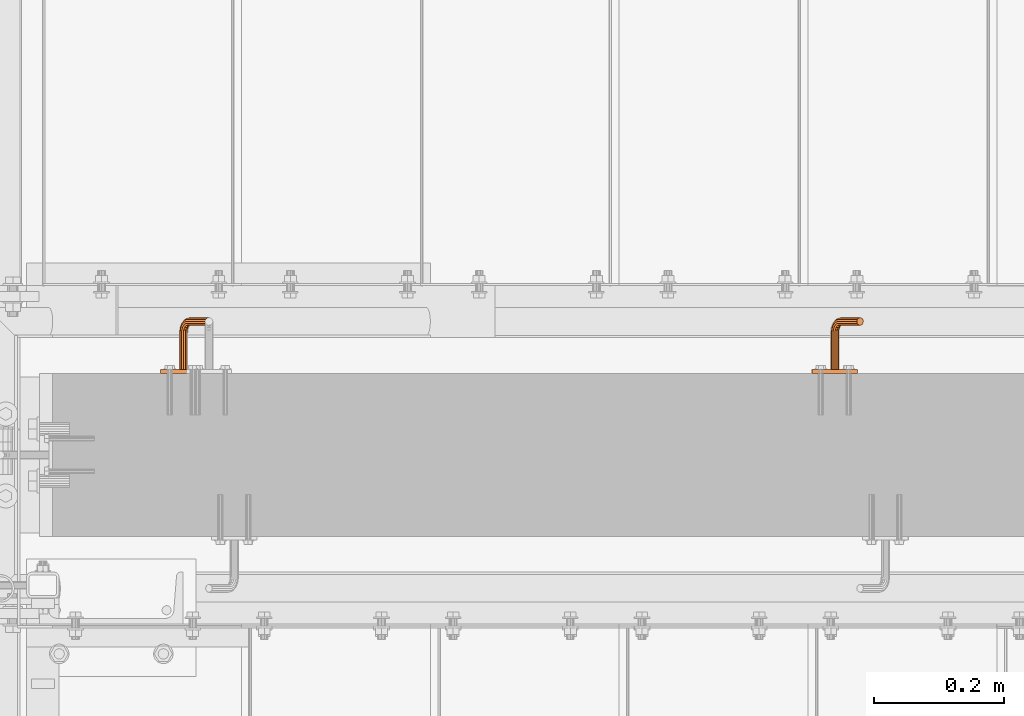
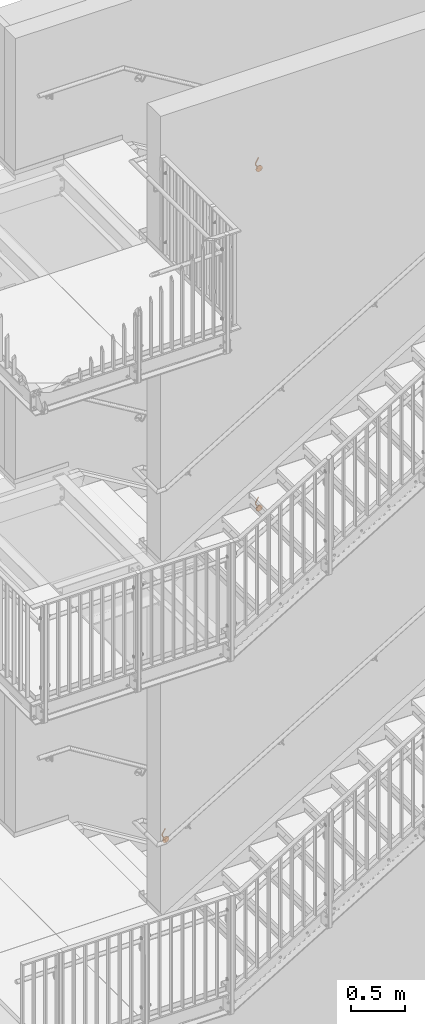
# One storey, part 378 of 410: 3 proxies.
"""IFC2X3 building model written with IfcOpenShell, lengths in millimetres."""

from ifc_helpers import new_model, entity, si_unit, converted_unit, origin_with_axes, place, context, project, spatial, faceted_brep, element, save


model = new_model("IFC2X3")

# Units and contexts
model_context = context("Model", 3, precision=1e-09, world=origin_with_axes())
ifc_project = project(units=[si_unit("LENGTHUNIT", "METRE", prefix="MILLI"), si_unit("AREAUNIT", "SQUARE_METRE"), si_unit("VOLUMEUNIT", "CUBIC_METRE"), converted_unit("PLANEANGLEUNIT", "DEGREE", entity("IfcPlaneAngleMeasure", 0.01745329), si_unit("PLANEANGLEUNIT", "RADIAN"), dimensions=[0, 0, 0, 0, 0, 0, 0])], contexts=[model_context])

# Site, building, storey
site_placement = place(None, origin_with_axes())
site = spatial("IfcSite", under=ifc_project, at=site_placement, Name="mKR Teilneubau & Sanierung BA1 - Ostfildern", CompositionType="ELEMENT")
building_placement = place(site_placement, origin_with_axes())
building = spatial("IfcBuilding", under=site, at=building_placement, Name="Struktur 1", CompositionType="ELEMENT")
storey_placement = place(building_placement, origin_with_axes())
storey = spatial("IfcBuildingStorey", under=building, at=storey_placement, Name="Default Storey", CompositionType="ELEMENT", Elevation=0.0)

# Proxies
proxy_1_placement = place(None, origin_with_axes())
element("IfcBuildingElementProxy", 1, at=proxy_1_placement, inside=storey, ObjectType="-", context=model_context, shape_type="Brep", body=[
    faceted_brep([(-527.207942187, 17111.0, 7854.625873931), (-527.207942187, 17105.0, 7854.625873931), (-528.793361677, 17105.0, 7853.100660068), (-528.793361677, 17111.0, 7853.100660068), (-478.86358451, 17111.0, 7862.598627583), (-472.221002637, 17111.0, 7853.184602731), (-468.995063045, 17111.0, 7842.123812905), (-469.535346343, 17111.0, 7830.614866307), (-473.783304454, 17111.0, 7819.904935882), (-481.278605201, 17111.0, 7811.154608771), (-491.209016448, 17111.0, 7805.312118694), (-502.49842405, 17111.0, 7803.010590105), (-513.923445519, 17111.0, 7804.499429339), (-524.246002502, 17111.0, 7809.617297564), (-532.347485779, 17111.0, 7817.809594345), (-537.349973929, 17111.0, 7828.188557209), (-538.711369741, 17111.0, 7839.629464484), (-536.284144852, 17111.0, 7850.892516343), (-530.331326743, 17111.0, 7860.757186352), (-521.497995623, 17111.0, 7868.15448445), (-510.741379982, 17111.0, 7872.282798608), (-499.22712603, 17111.0, 7872.694761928), (-488.202981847, 17111.0, 7869.345731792), (-484.398559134, 17111.0, 7828.792625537), (-485.983978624, 17111.0, 7827.267411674), (-486.594385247, 17111.0, 7825.153827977), (-486.066221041, 17111.0, 7823.018207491), (-484.541007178, 17111.0, 7821.432788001), (-482.427423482, 17111.0, 7820.822381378), (-480.291802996, 17111.0, 7821.350545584), (-478.706383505, 17111.0, 7822.875759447), (-478.095976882, 17111.0, 7824.989343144), (-478.624141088, 17111.0, 7827.124963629), (-480.149354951, 17111.0, 7828.71038312), (-482.262938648, 17111.0, 7829.320789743), (-529.403768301, 17111.0, 7850.987076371), (-528.875604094, 17111.0, 7848.851455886), (-527.350390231, 17111.0, 7847.266036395), (-525.236806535, 17111.0, 7846.655629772), (-523.101186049, 17111.0, 7847.183793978), (-521.515766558, 17111.0, 7848.709007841), (-520.905359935, 17111.0, 7850.822591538), (-521.433524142, 17111.0, 7852.958212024), (-522.958738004, 17111.0, 7854.543631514), (-525.072321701, 17111.0, 7855.154038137), (-525.072321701, 17105.0, 7855.154038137), (-513.923445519, 17105.0, 7804.499429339), (-502.49842405, 17105.0, 7803.010590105), (-491.209016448, 17105.0, 7805.312118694), (-481.278605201, 17105.0, 7811.154608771), (-473.783304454, 17105.0, 7819.904935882), (-469.535346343, 17105.0, 7830.614866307), (-468.995063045, 17105.0, 7842.123812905), (-472.221002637, 17105.0, 7853.184602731), (-478.86358451, 17105.0, 7862.598627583), (-488.202981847, 17105.0, 7869.345731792), (-499.22712603, 17105.0, 7872.694761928), (-510.741379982, 17105.0, 7872.282798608), (-521.497995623, 17105.0, 7868.15448445), (-530.331326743, 17105.0, 7860.757186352), (-536.284144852, 17105.0, 7850.892516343), (-538.711369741, 17105.0, 7839.629464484), (-537.349973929, 17105.0, 7828.188557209), (-532.347485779, 17105.0, 7817.809594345), (-524.246002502, 17105.0, 7809.617297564), (-486.594385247, 17105.0, 7825.153827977), (-485.983978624, 17105.0, 7827.267411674), (-484.398559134, 17105.0, 7828.792625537), (-482.262938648, 17105.0, 7829.320789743), (-480.149354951, 17105.0, 7828.71038312), (-478.624141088, 17105.0, 7827.124963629), (-478.095976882, 17105.0, 7824.989343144), (-478.706383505, 17105.0, 7822.875759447), (-480.291802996, 17105.0, 7821.350545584), (-482.427423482, 17105.0, 7820.822381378), (-484.541007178, 17105.0, 7821.432788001), (-486.066221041, 17105.0, 7823.018207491), (-522.958738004, 17105.0, 7854.543631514), (-521.433524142, 17105.0, 7852.958212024), (-520.905359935, 17105.0, 7850.822591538), (-521.515766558, 17105.0, 7848.709007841), (-523.101186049, 17105.0, 7847.183793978), (-525.236806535, 17105.0, 7846.655629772), (-527.350390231, 17105.0, 7847.266036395), (-528.875604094, 17105.0, 7848.851455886), (-529.403768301, 17105.0, 7850.987076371)], [[[0, 1, 2, 3]], [[4, 5, 6, 7, 8, 9, 10, 11, 12, 13, 14, 15, 16, 17, 18, 19, 20, 21, 22], [23, 24, 25, 26, 27, 28, 29, 30, 31, 32, 33, 34], [3, 35, 36, 37, 38, 39, 40, 41, 42, 43, 44, 0]], [[1, 0, 44, 45]], [[46, 47, 48, 49, 50, 51, 52, 53, 54, 55, 56, 57, 58, 59, 60, 61, 62, 63, 64], [65, 66, 67, 68, 69, 70, 71, 72, 73, 74, 75, 76], [1, 45, 77, 78, 79, 80, 81, 82, 83, 84, 85, 2]], [[3, 2, 85, 35]], [[59, 18, 17, 60]], [[35, 85, 84, 36]], [[45, 44, 43, 77]], [[18, 59, 58, 19]], [[36, 84, 83, 37]], [[60, 17, 16, 61]], [[77, 43, 42, 78]], [[57, 20, 19, 58]], [[37, 83, 82, 38]], [[20, 57, 56, 21]], [[15, 62, 61, 16]], [[78, 42, 41, 79]], [[62, 15, 14, 63]], [[38, 82, 81, 39]], [[79, 41, 40, 80]], [[21, 56, 55, 22]], [[39, 81, 80, 40]], [[63, 14, 13, 64]], [[22, 55, 54, 4]], [[66, 24, 23, 67]], [[64, 13, 12, 46]], [[24, 66, 65, 25]], [[67, 23, 34, 68]], [[4, 54, 53, 5]], [[46, 12, 11, 47]], [[25, 65, 76, 26]], [[68, 34, 33, 69]], [[5, 53, 52, 6]], [[47, 11, 10, 48]], [[26, 76, 75, 27]], [[69, 33, 32, 70]], [[6, 52, 51, 7]], [[48, 10, 9, 49]], [[27, 75, 74, 28]], [[50, 8, 7, 51]], [[70, 32, 31, 71]], [[8, 50, 49, 9]], [[28, 74, 73, 29]], [[71, 31, 30, 72]], [[29, 73, 72, 30]]]),
    faceted_brep([(-498.612746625, 17111.0, 7834.88821995), (-498.612746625, 17167.0, 7834.88821995), (-497.750996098, 17167.0, 7837.872102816), (-497.750996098, 17111.0, 7837.872102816), (-460.551118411, 17188.0, 7899.517614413), (-490.00102158, 17188.0, 7850.714917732), (-491.881340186, 17190.196152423, 7851.849592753), (-462.431437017, 17190.196152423, 7900.652289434), (-459.862874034, 17185.0, 7899.10229453), (-489.312777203, 17185.0, 7850.299597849), (-494.153123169, 17186.401470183, 7843.834292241), (-496.467663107, 17188.430450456, 7844.249400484), (-509.748749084, 17111.0, 7838.104316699), (-509.003105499, 17111.0, 7835.089323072), (-506.849862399, 17111.0, 7832.851083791), (-503.865979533, 17111.0, 7831.989333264), (-500.850985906, 17111.0, 7832.73497685), (-498.496639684, 17111.0, 7840.887096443), (-500.649882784, 17111.0, 7843.125335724), (-503.63376565, 17111.0, 7843.98708625), (-506.648759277, 17111.0, 7843.241442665), (-508.886998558, 17111.0, 7841.088199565), (-500.850985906, 17167.0, 7832.73497685), (-497.904828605, 17173.888301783, 7836.06134124), (-497.161064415, 17172.740251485, 7838.849703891), (-469.448881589, 17182.0, 7904.886954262), (-467.568562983, 17179.803847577, 7903.752279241), (-465.0, 17179.0, 7902.202284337), (-462.431437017, 17179.803847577, 7900.652289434), (-460.551118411, 17182.0, 7899.517614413), (-465.0, 17191.0, 7902.202284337), (-467.568562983, 17190.196152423, 7903.752279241), (-469.448881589, 17188.0, 7904.886954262), (-470.137125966, 17185.0, 7905.302274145), (-492.871721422, 17183.629831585, 7844.401918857), (-495.888848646, 17179.727922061, 7839.402108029), (-497.67310493, 17181.849242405, 7838.001179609), (-498.496639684, 17167.0, 7840.887096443), (-500.025081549, 17175.03635208, 7834.103618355), (-494.449903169, 17191.0, 7853.399587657), (-490.00102158, 17182.0, 7850.714917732), (-499.195162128, 17189.17310878, 7845.536015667), (-500.355759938, 17183.402156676, 7837.806268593), (-495.481081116, 17177.606601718, 7841.633676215), (-497.993079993, 17171.899820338, 7841.721566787), (-503.865979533, 17167.0, 7831.989333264), (-492.966808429, 17180.858192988, 7845.800185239), (-500.649882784, 17167.0, 7843.125335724), (-502.953703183, 17175.876783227, 7833.501105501), (-497.018466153, 17190.196152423, 7854.94958256), (-491.881340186, 17179.803847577, 7851.849592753), (-501.604789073, 17188.430450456, 7847.349390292), (-503.217998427, 17183.970562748, 7838.86960123), (-496.55906332, 17176.053687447, 7844.097937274), (-500.177937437, 17171.592201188, 7843.907416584), (-506.849862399, 17167.0, 7832.851083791), (-494.412905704, 17178.829212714, 7847.654427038), (-498.898784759, 17188.0, 7856.084257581), (-503.63376565, 17167.0, 7843.98708625), (-505.905971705, 17176.184402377, 7834.415245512), (-494.449903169, 17179.0, 7853.399587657), (-503.050886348, 17186.401470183, 7849.203632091), (-505.492885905, 17183.402156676, 7840.9062584), (-498.833950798, 17175.485281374, 7846.134594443), (-503.13020596, 17171.899820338, 7844.821556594), (-509.003105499, 17167.0, 7835.089323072), (-496.822532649, 17178.08655439, 7849.467801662), (-499.587029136, 17185.0, 7856.499577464), (-506.648759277, 17167.0, 7843.241442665), (-508.090829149, 17175.876783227, 7836.601095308), (-497.018466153, 17179.803847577, 7854.94958256), (-498.898784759, 17182.0, 7856.084257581), (-503.145973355, 17183.629831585, 7850.601898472), (-506.570868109, 17181.849242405, 7843.370519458), (-501.696189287, 17176.053687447, 7847.197927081), (-506.058827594, 17172.740251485, 7844.219043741), (-508.886998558, 17167.0, 7841.088199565), (-509.748749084, 17167.0, 7838.104316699), (-499.55003167, 17178.829212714, 7850.754416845), (-508.922844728, 17175.03635208, 7839.472958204), (-501.864571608, 17180.858192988, 7851.169525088), (-506.163100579, 17179.727922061, 7845.602087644), (-508.179080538, 17173.888301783, 7842.261320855), (-504.378844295, 17177.606601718, 7847.003016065)], [[[0, 1, 2, 3]], [[4, 5, 6, 7]], [[5, 4, 8, 9]], [[6, 5, 10, 11]], [[12, 13, 14, 15, 16, 0, 3, 17, 18, 19, 20, 21]], [[1, 0, 16, 22]], [[2, 1, 23, 24]], [[25, 26, 27, 28, 29, 8, 4, 7, 30, 31, 32, 33]], [[34, 10, 5, 9]], [[35, 36, 10, 34]], [[3, 2, 37, 17]], [[38, 23, 1, 22]], [[36, 35, 23, 38]], [[7, 6, 39, 30]], [[9, 8, 29, 40]], [[39, 6, 11, 41]], [[11, 10, 36, 42]], [[24, 23, 35, 43]], [[37, 2, 24, 44]], [[22, 16, 15, 45]], [[43, 35, 34, 46]], [[46, 34, 9, 40]], [[17, 37, 47, 18]], [[48, 38, 22, 45]], [[42, 36, 38, 48]], [[30, 39, 49, 31]], [[40, 29, 28, 50]], [[49, 39, 41, 51]], [[41, 11, 42, 52]], [[44, 24, 43, 53]], [[47, 37, 44, 54]], [[45, 15, 14, 55]], [[53, 43, 46, 56]], [[56, 46, 40, 50]], [[31, 49, 57, 32]], [[18, 47, 58, 19]], [[59, 48, 45, 55]], [[52, 42, 48, 59]], [[50, 28, 27, 60]], [[57, 49, 51, 61]], [[51, 41, 52, 62]], [[54, 44, 53, 63]], [[58, 47, 54, 64]], [[55, 14, 13, 65]], [[66, 56, 50, 60]], [[63, 53, 56, 66]], [[32, 57, 67, 33]], [[19, 58, 68, 20]], [[69, 59, 55, 65]], [[62, 52, 59, 69]], [[60, 27, 26, 70]], [[71, 25, 33, 67]], [[70, 26, 25, 71]], [[67, 57, 61, 72]], [[61, 51, 62, 73]], [[64, 54, 63, 74]], [[68, 58, 64, 75]], [[76, 21, 20, 68]], [[77, 12, 21, 76]], [[65, 13, 12, 77]], [[78, 66, 60, 70]], [[74, 63, 66, 78]], [[79, 69, 65, 77]], [[73, 62, 69, 79]], [[71, 67, 72, 80]], [[70, 71, 80, 78]], [[72, 61, 73, 81]], [[76, 68, 75, 82]], [[75, 64, 74, 83]], [[77, 76, 82, 79]], [[83, 74, 78, 80]], [[81, 73, 79, 82]], [[80, 72, 81, 83]], [[82, 75, 83, 81]]]),
])
proxy_2_placement = place(None, origin_with_axes())
element("IfcBuildingElementProxy", 2, at=proxy_2_placement, inside=storey, ObjectType="-", context=model_context, shape_type="Brep", body=[
    faceted_brep([(-527.076769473, 17111.0, 4009.184446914), (-527.076769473, 17105.0, 4009.184446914), (-528.657985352, 17105.0, 4007.654875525), (-528.657985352, 17111.0, 4007.654875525), (-478.754537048, 17111.0, 4017.290220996), (-472.086071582, 17111.0, 4007.894513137), (-468.829703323, 17111.0, 3996.84264345), (-469.338310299, 17111.0, 3985.332253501), (-473.556777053, 17111.0, 3974.610672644), (-481.027967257, 17111.0, 3965.839750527), (-490.942261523, 17111.0, 3959.969952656), (-502.225292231, 17111.0, 3957.637362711), (-513.654367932, 17111.0, 3959.094753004), (-523.990970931, 17111.0, 3964.184192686), (-532.114969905, 17111.0, 3972.354161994), (-537.146003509, 17111.0, 3982.719317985), (-538.538881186, 17111.0, 3994.156435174), (-536.142663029, 17111.0, 4005.42612445), (-530.217016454, 17111.0, 4015.307140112), (-521.404077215, 17111.0, 4022.728720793), (-510.658864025, 17111.0, 4026.886623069), (-499.145787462, 17111.0, 4027.330273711), (-488.112468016, 17111.0, 4024.011596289), (-484.196451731, 17111.0, 3983.469113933), (-485.77766761, 17111.0, 3981.939542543), (-486.382255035, 17111.0, 3979.824286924), (-485.848215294, 17111.0, 3977.69012811), (-484.318643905, 17111.0, 3976.108912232), (-482.203388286, 17111.0, 3975.504324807), (-480.069229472, 17111.0, 3976.038364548), (-478.488013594, 17111.0, 3977.567935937), (-477.883426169, 17111.0, 3979.683191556), (-478.417465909, 17111.0, 3981.81735037), (-479.947037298, 17111.0, 3983.398566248), (-482.062292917, 17111.0, 3984.003153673), (-529.262572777, 17111.0, 4005.539619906), (-528.728533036, 17111.0, 4003.405461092), (-527.198961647, 17111.0, 4001.824245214), (-525.083706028, 17111.0, 4001.219657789), (-522.949547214, 17111.0, 4001.753697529), (-521.368331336, 17111.0, 4003.283268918), (-520.76374391, 17111.0, 4005.398524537), (-521.297783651, 17111.0, 4007.532683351), (-522.82735504, 17111.0, 4009.11389923), (-524.942610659, 17111.0, 4009.718486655), (-524.942610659, 17105.0, 4009.718486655), (-513.654367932, 17105.0, 3959.094753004), (-502.225292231, 17105.0, 3957.637362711), (-490.942261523, 17105.0, 3959.969952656), (-481.027967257, 17105.0, 3965.839750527), (-473.556777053, 17105.0, 3974.610672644), (-469.338310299, 17105.0, 3985.332253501), (-468.829703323, 17105.0, 3996.84264345), (-472.086071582, 17105.0, 4007.894513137), (-478.754537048, 17105.0, 4017.290220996), (-488.112468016, 17105.0, 4024.011596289), (-499.145787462, 17105.0, 4027.330273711), (-510.658864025, 17105.0, 4026.886623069), (-521.404077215, 17105.0, 4022.728720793), (-530.217016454, 17105.0, 4015.307140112), (-536.142663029, 17105.0, 4005.42612445), (-538.538881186, 17105.0, 3994.156435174), (-537.146003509, 17105.0, 3982.719317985), (-532.114969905, 17105.0, 3972.354161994), (-523.990970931, 17105.0, 3964.184192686), (-522.82735504, 17105.0, 4009.11389923), (-521.297783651, 17105.0, 4007.532683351), (-520.76374391, 17105.0, 4005.398524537), (-521.368331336, 17105.0, 4003.283268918), (-522.949547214, 17105.0, 4001.753697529), (-525.083706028, 17105.0, 4001.219657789), (-527.198961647, 17105.0, 4001.824245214), (-528.728533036, 17105.0, 4003.405461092), (-529.262572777, 17105.0, 4005.539619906), (-486.382255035, 17105.0, 3979.824286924), (-485.77766761, 17105.0, 3981.939542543), (-484.196451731, 17105.0, 3983.469113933), (-482.062292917, 17105.0, 3984.003153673), (-479.947037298, 17105.0, 3983.398566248), (-478.417465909, 17105.0, 3981.81735037), (-477.883426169, 17105.0, 3979.683191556), (-478.488013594, 17105.0, 3977.567935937), (-480.069229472, 17105.0, 3976.038364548), (-482.203388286, 17105.0, 3975.504324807), (-484.318643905, 17105.0, 3976.108912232), (-485.848215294, 17105.0, 3977.69012811)], [[[0, 1, 2, 3]], [[4, 5, 6, 7, 8, 9, 10, 11, 12, 13, 14, 15, 16, 17, 18, 19, 20, 21, 22], [23, 24, 25, 26, 27, 28, 29, 30, 31, 32, 33, 34], [3, 35, 36, 37, 38, 39, 40, 41, 42, 43, 44, 0]], [[1, 0, 44, 45]], [[46, 47, 48, 49, 50, 51, 52, 53, 54, 55, 56, 57, 58, 59, 60, 61, 62, 63, 64], [1, 45, 65, 66, 67, 68, 69, 70, 71, 72, 73, 2], [74, 75, 76, 77, 78, 79, 80, 81, 82, 83, 84, 85]], [[3, 2, 73, 35]], [[59, 18, 17, 60]], [[35, 73, 72, 36]], [[45, 44, 43, 65]], [[18, 59, 58, 19]], [[36, 72, 71, 37]], [[60, 17, 16, 61]], [[65, 43, 42, 66]], [[57, 20, 19, 58]], [[37, 71, 70, 38]], [[20, 57, 56, 21]], [[15, 62, 61, 16]], [[66, 42, 41, 67]], [[62, 15, 14, 63]], [[38, 70, 69, 39]], [[67, 41, 40, 68]], [[21, 56, 55, 22]], [[39, 69, 68, 40]], [[63, 14, 13, 64]], [[22, 55, 54, 4]], [[75, 24, 23, 76]], [[64, 13, 12, 46]], [[24, 75, 74, 25]], [[76, 23, 34, 77]], [[4, 54, 53, 5]], [[46, 12, 11, 47]], [[25, 74, 85, 26]], [[77, 34, 33, 78]], [[5, 53, 52, 6]], [[47, 11, 10, 48]], [[26, 85, 84, 27]], [[78, 33, 32, 79]], [[6, 52, 51, 7]], [[48, 10, 9, 49]], [[27, 84, 83, 28]], [[50, 8, 7, 51]], [[79, 32, 31, 80]], [[8, 50, 49, 9]], [[28, 83, 82, 29]], [[80, 31, 30, 81]], [[29, 82, 81, 30]]]),
    faceted_brep([(-498.427361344, 17111.0, 3989.525565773), (-498.427361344, 17167.0, 3989.525565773), (-497.573826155, 17167.0, 3992.511809), (-497.573826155, 17111.0, 3992.511809), (-460.543746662, 17188.0, 4054.259466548), (-489.859226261, 17188.0, 4005.375904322), (-491.742660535, 17190.196152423, 4006.505400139), (-462.427180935, 17190.196152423, 4055.388962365), (-459.854361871, 17185.0, 4053.846042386), (-489.16984147, 17185.0, 4004.96248016), (-493.992375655, 17186.401470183, 3998.483877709), (-496.308049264, 17188.430450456, 3998.892614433), (-509.57217279, 17111.0, 3992.711002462), (-508.818234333, 17111.0, 3989.698072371), (-506.658839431, 17111.0, 3987.465767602), (-503.672596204, 17111.0, 3986.612232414), (-500.659666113, 17111.0, 3987.366170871), (-498.327764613, 17111.0, 3995.52473909), (-500.487159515, 17111.0, 3997.75704386), (-503.473402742, 17111.0, 3998.610579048), (-506.486332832, 17111.0, 3997.856640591), (-508.718637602, 17111.0, 3995.697245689), (-500.659666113, 17167.0, 3987.366170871), (-497.722674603, 17173.888301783, 3990.700630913), (-496.986587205, 17172.740251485, 3993.49102995), (-469.456253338, 17182.0, 4059.604298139), (-467.572819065, 17179.803847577, 4058.474802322), (-465.0, 17179.0, 4056.931882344), (-462.427180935, 17179.803847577, 4055.388962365), (-460.543746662, 17182.0, 4054.259466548), (-465.0, 17191.0, 4056.931882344), (-467.572819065, 17190.196152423, 4058.474802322), (-469.456253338, 17188.0, 4059.604298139), (-470.145638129, 17185.0, 4060.017722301), (-492.712540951, 17183.629831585, 3999.055028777), (-495.71589655, 17179.727922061, 3994.046933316), (-497.49629052, 17181.849242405, 3992.641099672), (-498.327764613, 17167.0, 3995.52473909), (-499.837531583, 17175.03635208, 3988.737080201), (-494.315479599, 17191.0, 4008.048320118), (-489.859226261, 17182.0, 4005.375904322), (-499.039078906, 17189.17310878, 4000.171718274), (-500.178398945, 17183.402156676, 3992.438806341), (-495.31427216, 17177.606601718, 3996.279615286), (-497.826503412, 17171.899820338, 3996.360592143), (-503.672596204, 17167.0, 3986.612232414), (-492.811475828, 17180.858192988, 4000.45302817), (-500.487159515, 17167.0, 3997.75704386), (-502.764483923, 17175.876783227, 3988.126509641), (-496.888298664, 17190.196152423, 4009.591240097), (-491.742660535, 17179.803847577, 4006.505400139), (-501.453687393, 17188.430450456, 4001.978454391), (-503.043553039, 17183.970562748, 3993.49425766), (-496.399032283, 17176.053687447, 3998.74090025), (-500.017368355, 17171.592201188, 3998.54042062), (-506.658839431, 17167.0, 3987.465767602), (-494.262670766, 17178.829212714, 4002.303283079), (-498.771732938, 17188.0, 4010.720735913), (-503.473402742, 17167.0, 3998.610579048), (-505.71925711, 17176.184402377, 3989.032521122), (-494.315479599, 17179.0, 4008.048320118), (-502.904882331, 17186.401470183, 4003.8287093), (-505.324037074, 17183.402156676, 3995.524646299), (-498.679516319, 17175.485281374, 4000.771288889), (-502.972141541, 17171.899820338, 3999.446432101), (-508.818234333, 17167.0, 3989.698072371), (-496.677279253, 17178.08655439, 4004.110019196), (-499.461117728, 17185.0, 4011.134160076), (-506.486332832, 17167.0, 3997.856640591), (-507.910122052, 17175.876783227, 3991.212349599), (-496.888298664, 17179.803847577, 4009.591240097), (-498.771732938, 17182.0, 4010.720735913), (-503.003817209, 17183.629831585, 4005.226708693), (-506.408797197, 17181.849242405, 3997.985931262), (-501.544670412, 17176.053687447, 4001.826740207), (-505.899093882, 17172.740251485, 3998.835861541), (-508.718637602, 17167.0, 3995.697245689), (-509.57217279, 17167.0, 3992.711002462), (-499.408308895, 17178.829212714, 4005.389123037), (-508.750038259, 17175.03635208, 3994.081911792), (-501.723982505, 17180.858192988, 4005.797859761), (-506.007172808, 17179.727922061, 4000.218613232), (-508.013950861, 17173.888301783, 3996.872310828), (-504.226778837, 17177.606601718, 4001.624446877)], [[[0, 1, 2, 3]], [[4, 5, 6, 7]], [[5, 4, 8, 9]], [[6, 5, 10, 11]], [[12, 13, 14, 15, 16, 0, 3, 17, 18, 19, 20, 21]], [[1, 0, 16, 22]], [[2, 1, 23, 24]], [[25, 26, 27, 28, 29, 8, 4, 7, 30, 31, 32, 33]], [[34, 10, 5, 9]], [[35, 36, 10, 34]], [[3, 2, 37, 17]], [[38, 23, 1, 22]], [[36, 35, 23, 38]], [[7, 6, 39, 30]], [[9, 8, 29, 40]], [[39, 6, 11, 41]], [[11, 10, 36, 42]], [[24, 23, 35, 43]], [[37, 2, 24, 44]], [[22, 16, 15, 45]], [[43, 35, 34, 46]], [[46, 34, 9, 40]], [[17, 37, 47, 18]], [[48, 38, 22, 45]], [[42, 36, 38, 48]], [[30, 39, 49, 31]], [[40, 29, 28, 50]], [[49, 39, 41, 51]], [[41, 11, 42, 52]], [[44, 24, 43, 53]], [[47, 37, 44, 54]], [[45, 15, 14, 55]], [[53, 43, 46, 56]], [[56, 46, 40, 50]], [[31, 49, 57, 32]], [[18, 47, 58, 19]], [[59, 48, 45, 55]], [[52, 42, 48, 59]], [[50, 28, 27, 60]], [[57, 49, 51, 61]], [[51, 41, 52, 62]], [[54, 44, 53, 63]], [[58, 47, 54, 64]], [[55, 14, 13, 65]], [[66, 56, 50, 60]], [[63, 53, 56, 66]], [[32, 57, 67, 33]], [[19, 58, 68, 20]], [[69, 59, 55, 65]], [[62, 52, 59, 69]], [[60, 27, 26, 70]], [[71, 25, 33, 67]], [[70, 26, 25, 71]], [[67, 57, 61, 72]], [[61, 51, 62, 73]], [[64, 54, 63, 74]], [[68, 58, 64, 75]], [[76, 21, 20, 68]], [[77, 12, 21, 76]], [[65, 13, 12, 77]], [[78, 66, 60, 70]], [[74, 63, 66, 78]], [[79, 69, 65, 77]], [[73, 62, 69, 79]], [[71, 67, 72, 80]], [[70, 71, 80, 78]], [[72, 61, 73, 81]], [[76, 68, 75, 82]], [[75, 64, 74, 83]], [[77, 76, 82, 79]], [[83, 74, 78, 80]], [[81, 73, 79, 82]], [[80, 72, 81, 83]], [[82, 75, 83, 81]]]),
])
proxy_3_placement = place(None, origin_with_axes())
element("IfcBuildingElementProxy", 3, at=proxy_3_placement, inside=storey, ObjectType="-", context=model_context, shape_type="Brep", body=[
    faceted_brep([(-1527.659450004, 17111.0, 605.236240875), (-1527.659450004, 17105.0, 605.236240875), (-1529.259362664, 17105.0, 603.726236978), (-1529.259362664, 17111.0, 603.726236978), (-1479.241158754, 17111.0, 612.746952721), (-1472.688781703, 17111.0, 603.26992192), (-1469.568617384, 17111.0, 592.178829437), (-1470.218784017, 17111.0, 580.675567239), (-1474.568825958, 17111.0, 570.006692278), (-1482.147348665, 17111.0, 561.328342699), (-1492.133101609, 17111.0, 555.580952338), (-1503.443973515, 17111.0, 553.38734012), (-1514.854255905, 17111.0, 554.985217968), (-1525.127467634, 17111.0, 560.201431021), (-1533.150346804, 17111.0, 568.470721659), (-1538.053489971, 17111.0, 578.896983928), (-1539.305565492, 17111.0, 590.350370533), (-1536.770891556, 17111.0, 601.589729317), (-1530.724139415, 17111.0, 611.397101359), (-1521.820568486, 17111.0, 618.709705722), (-1511.025018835, 17111.0, 622.735108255), (-1499.507355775, 17111.0, 623.037094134), (-1488.515696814, 17111.0, 619.582938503), (-1485.09872105, 17111.0, 578.995350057), (-1486.69863371, 17111.0, 577.485346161), (-1487.329196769, 17111.0, 575.377688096), (-1486.821451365, 17111.0, 573.23712114), (-1485.311447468, 17111.0, 571.63720848), (-1483.203789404, 17111.0, 571.006645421), (-1481.063222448, 17111.0, 571.514390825), (-1479.463309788, 17111.0, 573.024394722), (-1478.832746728, 17111.0, 575.132052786), (-1479.340492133, 17111.0, 577.272619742), (-1480.850496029, 17111.0, 578.872532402), (-1482.958154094, 17111.0, 579.503095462), (-1529.889925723, 17111.0, 601.618578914), (-1529.382180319, 17111.0, 599.478011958), (-1527.872176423, 17111.0, 597.878099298), (-1525.764518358, 17111.0, 597.247536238), (-1523.623951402, 17111.0, 597.755281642), (-1522.024038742, 17111.0, 599.265285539), (-1521.393475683, 17111.0, 601.372943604), (-1521.901221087, 17111.0, 603.51351056), (-1523.411224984, 17111.0, 605.11342322), (-1525.518883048, 17111.0, 605.743986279), (-1525.518883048, 17105.0, 605.743986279), (-1514.854255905, 17105.0, 554.985217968), (-1503.443973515, 17105.0, 553.38734012), (-1492.133101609, 17105.0, 555.580952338), (-1482.147348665, 17105.0, 561.328342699), (-1474.568825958, 17105.0, 570.006692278), (-1470.218784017, 17105.0, 580.675567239), (-1469.568617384, 17105.0, 592.178829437), (-1472.688781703, 17105.0, 603.26992192), (-1479.241158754, 17105.0, 612.746952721), (-1488.515696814, 17105.0, 619.582938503), (-1499.507355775, 17105.0, 623.037094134), (-1511.025018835, 17105.0, 622.735108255), (-1521.820568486, 17105.0, 618.709705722), (-1530.724139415, 17105.0, 611.397101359), (-1536.770891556, 17105.0, 601.589729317), (-1539.305565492, 17105.0, 590.350370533), (-1538.053489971, 17105.0, 578.896983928), (-1533.150346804, 17105.0, 568.470721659), (-1525.127467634, 17105.0, 560.201431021), (-1523.411224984, 17105.0, 605.11342322), (-1521.901221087, 17105.0, 603.51351056), (-1521.393475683, 17105.0, 601.372943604), (-1522.024038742, 17105.0, 599.265285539), (-1523.623951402, 17105.0, 597.755281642), (-1525.764518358, 17105.0, 597.247536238), (-1527.872176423, 17105.0, 597.878099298), (-1529.382180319, 17105.0, 599.478011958), (-1529.889925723, 17105.0, 601.618578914), (-1487.329196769, 17105.0, 575.377688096), (-1486.69863371, 17105.0, 577.485346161), (-1485.09872105, 17105.0, 578.995350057), (-1482.958154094, 17105.0, 579.503095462), (-1480.850496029, 17105.0, 578.872532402), (-1479.340492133, 17105.0, 577.272619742), (-1478.832746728, 17105.0, 575.132052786), (-1479.463309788, 17105.0, 573.024394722), (-1481.063222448, 17105.0, 571.514390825), (-1483.203789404, 17105.0, 571.006645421), (-1485.311447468, 17105.0, 571.63720848), (-1486.821451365, 17105.0, 573.23712114)], [[[0, 1, 2, 3]], [[4, 5, 6, 7, 8, 9, 10, 11, 12, 13, 14, 15, 16, 17, 18, 19, 20, 21, 22], [23, 24, 25, 26, 27, 28, 29, 30, 31, 32, 33, 34], [3, 35, 36, 37, 38, 39, 40, 41, 42, 43, 44, 0]], [[1, 0, 44, 45]], [[46, 47, 48, 49, 50, 51, 52, 53, 54, 55, 56, 57, 58, 59, 60, 61, 62, 63, 64], [1, 45, 65, 66, 67, 68, 69, 70, 71, 72, 73, 2], [74, 75, 76, 77, 78, 79, 80, 81, 82, 83, 84, 85]], [[3, 2, 73, 35]], [[59, 18, 17, 60]], [[35, 73, 72, 36]], [[45, 44, 43, 65]], [[18, 59, 58, 19]], [[36, 72, 71, 37]], [[60, 17, 16, 61]], [[65, 43, 42, 66]], [[57, 20, 19, 58]], [[37, 71, 70, 38]], [[20, 57, 56, 21]], [[15, 62, 61, 16]], [[66, 42, 41, 67]], [[62, 15, 14, 63]], [[38, 70, 69, 39]], [[67, 41, 40, 68]], [[21, 56, 55, 22]], [[39, 69, 68, 40]], [[63, 14, 13, 64]], [[22, 55, 54, 4]], [[75, 24, 23, 76]], [[64, 13, 12, 46]], [[24, 75, 74, 25]], [[76, 23, 34, 77]], [[4, 54, 53, 5]], [[46, 12, 11, 47]], [[25, 74, 85, 26]], [[77, 34, 33, 78]], [[5, 53, 52, 6]], [[47, 11, 10, 48]], [[26, 85, 84, 27]], [[78, 33, 32, 79]], [[6, 52, 51, 7]], [[48, 10, 9, 49]], [[27, 84, 83, 28]], [[50, 8, 7, 51]], [[79, 32, 31, 80]], [[8, 50, 49, 9]], [[28, 83, 82, 29]], [[80, 31, 30, 81]], [[29, 82, 81, 30]]]),
    faceted_brep([(-1499.254048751, 17111.0, 585.226408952), (-1499.254048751, 17167.0, 585.226408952), (-1498.36384208, 17167.0, 588.201926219), (-1498.36384208, 17111.0, 588.201926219), (-1460.576959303, 17188.0, 649.489375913), (-1490.491574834, 17188.0, 600.970144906), (-1492.360971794, 17190.196152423, 602.122724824), (-1462.446356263, 17190.196152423, 650.641955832), (-1459.892712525, 17185.0, 649.067502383), (-1489.807328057, 17185.0, 600.548271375), (-1494.709195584, 17186.401470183, 594.129484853), (-1497.019665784, 17188.430450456, 594.566677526), (-1510.358830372, 17111.0, 588.548705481), (-1509.642013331, 17111.0, 585.526728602), (-1507.510243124, 17111.0, 583.268028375), (-1504.534725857, 17111.0, 582.377821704), (-1501.512748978, 17111.0, 583.094638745), (-1499.080659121, 17111.0, 591.223903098), (-1501.212429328, 17111.0, 593.482603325), (-1504.187946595, 17111.0, 594.372809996), (-1507.209923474, 17111.0, 593.655992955), (-1509.4686237, 17111.0, 591.524222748), (-1501.512748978, 17167.0, 583.094638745), (-1498.534959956, 17173.888301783, 586.392716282), (-1497.764601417, 17172.740251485, 589.173848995), (-1469.423040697, 17182.0, 654.943442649), (-1467.553643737, 17179.803847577, 653.79086273), (-1465.0, 17179.0, 652.216409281), (-1462.446356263, 17179.803847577, 650.641955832), (-1460.576959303, 17182.0, 649.489375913), (-1465.0, 17191.0, 652.216409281), (-1467.553643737, 17190.196152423, 653.79086273), (-1469.423040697, 17188.0, 654.943442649), (-1470.107287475, 17185.0, 655.365316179), (-1493.422431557, 17183.629831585, 594.684848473), (-1496.48716832, 17179.727922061, 589.714078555), (-1498.284721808, 17181.849242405, 588.330253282), (-1499.080659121, 17167.0, 591.223903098), (-1500.67381205, 17175.03635208, 584.45533063), (-1494.914615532, 17191.0, 603.697178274), (-1490.491574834, 17182.0, 600.970144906), (-1499.734753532, 17189.17310878, 595.87928107), (-1500.969115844, 17183.402156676, 588.160969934), (-1496.058108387, 17177.606601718, 591.941650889), (-1498.56915338, 17171.899820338, 592.053526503), (-1504.534725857, 17167.0, 582.377821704), (-1493.504161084, 17180.858192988, 596.083959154), (-1501.212429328, 17167.0, 593.482603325), (-1503.608054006, 17175.876783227, 583.88081296), (-1497.468259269, 17190.196152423, 605.271631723), (-1492.360971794, 17179.803847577, 602.122724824), (-1502.126953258, 17188.430450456, 597.715584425), (-1503.821069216, 17183.970562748, 589.251587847), (-1497.11250827, 17176.053687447, 594.416094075), (-1500.733036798, 17171.592201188, 594.260141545), (-1507.510243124, 17167.0, 583.268028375), (-1494.932484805, 17178.829212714, 597.951926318), (-1499.337656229, 17188.0, 606.424211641), (-1504.187946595, 17167.0, 594.372809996), (-1506.551458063, 17176.184402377, 584.823104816), (-1494.914615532, 17179.0, 603.697178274), (-1503.555276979, 17186.401470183, 599.583551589), (-1506.076403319, 17183.402156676, 591.309876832), (-1499.367842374, 17175.485281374, 596.47438306), (-1503.676440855, 17171.899820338, 595.202433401), (-1509.642013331, 17167.0, 585.526728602), (-1497.324684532, 17178.08655439, 599.788229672), (-1500.021903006, 17185.0, 606.846085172), (-1507.209923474, 17167.0, 593.655992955), (-1508.715341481, 17175.876783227, 587.029719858), (-1497.468259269, 17179.803847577, 605.271631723), (-1499.337656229, 17182.0, 606.424211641), (-1503.637006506, 17183.629831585, 600.982662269), (-1507.130803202, 17181.849242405, 593.784320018), (-1502.219795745, 17176.053687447, 597.565000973), (-1506.610682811, 17172.740251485, 594.627915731), (-1509.4686237, 17167.0, 591.524222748), (-1510.358830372, 17167.0, 588.548705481), (-1500.039772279, 17178.829212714, 601.100833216), (-1509.519893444, 17175.03635208, 589.909397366), (-1502.350242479, 17180.858192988, 601.538025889), (-1506.701743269, 17179.727922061, 596.011892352), (-1508.749534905, 17173.888301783, 592.690530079), (-1504.904189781, 17177.606601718, 597.395717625)], [[[0, 1, 2, 3]], [[4, 5, 6, 7]], [[5, 4, 8, 9]], [[6, 5, 10, 11]], [[12, 13, 14, 15, 16, 0, 3, 17, 18, 19, 20, 21]], [[1, 0, 16, 22]], [[2, 1, 23, 24]], [[25, 26, 27, 28, 29, 8, 4, 7, 30, 31, 32, 33]], [[34, 10, 5, 9]], [[35, 36, 10, 34]], [[3, 2, 37, 17]], [[38, 23, 1, 22]], [[36, 35, 23, 38]], [[7, 6, 39, 30]], [[9, 8, 29, 40]], [[39, 6, 11, 41]], [[11, 10, 36, 42]], [[24, 23, 35, 43]], [[37, 2, 24, 44]], [[22, 16, 15, 45]], [[43, 35, 34, 46]], [[46, 34, 9, 40]], [[17, 37, 47, 18]], [[48, 38, 22, 45]], [[42, 36, 38, 48]], [[30, 39, 49, 31]], [[40, 29, 28, 50]], [[49, 39, 41, 51]], [[41, 11, 42, 52]], [[44, 24, 43, 53]], [[47, 37, 44, 54]], [[45, 15, 14, 55]], [[53, 43, 46, 56]], [[56, 46, 40, 50]], [[31, 49, 57, 32]], [[18, 47, 58, 19]], [[59, 48, 45, 55]], [[52, 42, 48, 59]], [[50, 28, 27, 60]], [[57, 49, 51, 61]], [[51, 41, 52, 62]], [[54, 44, 53, 63]], [[58, 47, 54, 64]], [[55, 14, 13, 65]], [[66, 56, 50, 60]], [[63, 53, 56, 66]], [[32, 57, 67, 33]], [[19, 58, 68, 20]], [[69, 59, 55, 65]], [[62, 52, 59, 69]], [[60, 27, 26, 70]], [[71, 25, 33, 67]], [[70, 26, 25, 71]], [[67, 57, 61, 72]], [[61, 51, 62, 73]], [[64, 54, 63, 74]], [[68, 58, 64, 75]], [[76, 21, 20, 68]], [[77, 12, 21, 76]], [[65, 13, 12, 77]], [[78, 66, 60, 70]], [[74, 63, 66, 78]], [[79, 69, 65, 77]], [[73, 62, 69, 79]], [[71, 67, 72, 80]], [[70, 71, 80, 78]], [[72, 61, 73, 81]], [[76, 68, 75, 82]], [[75, 64, 74, 83]], [[77, 76, 82, 79]], [[83, 74, 78, 80]], [[81, 73, 79, 82]], [[80, 72, 81, 83]], [[82, 75, 83, 81]]]),
])

save(model, "model.ifc")
